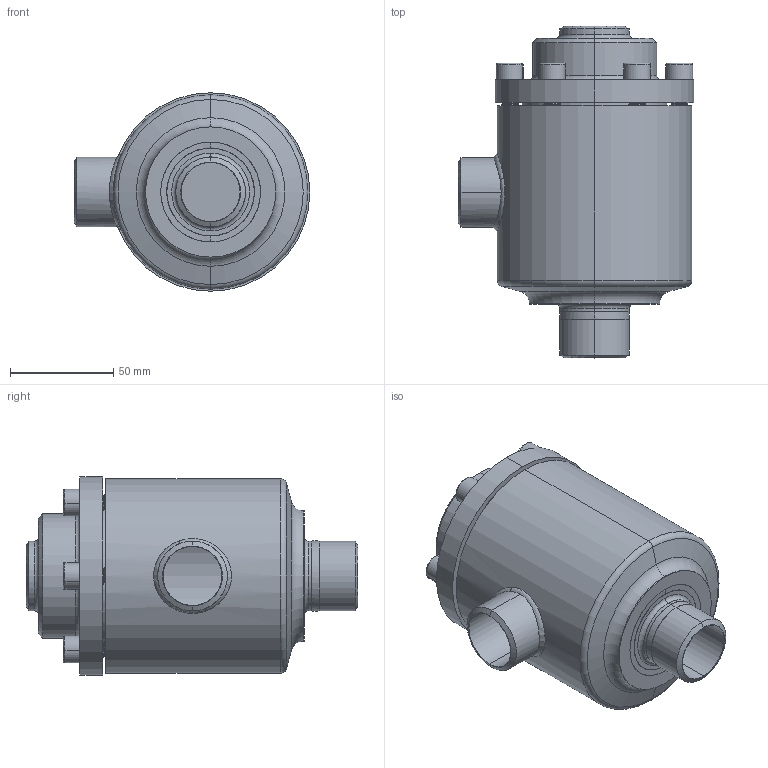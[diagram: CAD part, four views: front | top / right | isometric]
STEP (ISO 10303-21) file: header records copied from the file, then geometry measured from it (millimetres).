
FILE_DESCRIPTION (( 'STEP AP214' ), '1' );
FILE_NAME ('TR47000C12-DN25_R1_PS40.STEP', '2005-08-10T05:24:33', ( 'Herr Grams' ), ( 'AWP GmbH' ), 'SwSTEP 2.0', 'SolidWorks 2002296', '' );
FILE_SCHEMA (( 'AUTOMOTIVE_DESIGN' ));
Length unit declared in the file: millimetre
Products named in the file (12): TR47000C12-DN25_R1_PS40; Deckel47000E12_DN25_PS40_R1_Standard; Zylinderschraube-DIN912-M 8x22_M 8x 22; Geh-kpl47000E12-DN25_PS40_R1_Standard; RohrstutzE00000-DN15-25_PS40_R1_DN 25; RohrstutzA47000E12-DN25_PS40_R1_Standard; Geh47000E12_DN25_PS40_R1_Standard; Stutzenteil47000E12_DN25_PS40_R1_Standard; bead12-3_Standard; bead12-2_Standard; bead11-1_Standard; Führungsring47050-11-DN15-40_Standard
Assembly tree (16 placements, depth 3):
  TR47000C12-DN25_R1_PS40
    Deckel47000E12_DN25_PS40_R1_Standard
    Zylinderschraube-DIN912-M 8x22_M 8x 22  x6
    Führungsring47050-11-DN15-40_Standard
    Geh-kpl47000E12-DN25_PS40_R1_Standard
      bead11-1_Standard
      Geh47000E12_DN25_PS40_R1_Standard
      RohrstutzA47000E12-DN25_PS40_R1_Standard
      RohrstutzE00000-DN15-25_PS40_R1_DN 25
      bead12-3_Standard
      Stutzenteil47000E12_DN25_PS40_R1_Standard
      bead12-2_Standard
Bounding box: 114 x 160.5 x 96 mm (x, y, z)
Volume: 480431.3 mm3; surface area: 127471 mm2
Topology: 15 solids, 15 shells, 477 faces, 1216 edges, 786 vertices
Faces by surface type: cylinder 296, plane 91, cone 46, torus 24, bspline 20
Entity records: 23490 total; most frequent: CARTESIAN_POINT 17881, ORIENTED_EDGE 972, DIRECTION 970, EDGE_CURVE 486, AXIS2_PLACEMENT_3D 401, VERTEX_POINT 306, EDGE_LOOP 252, ADVANCED_FACE 207
